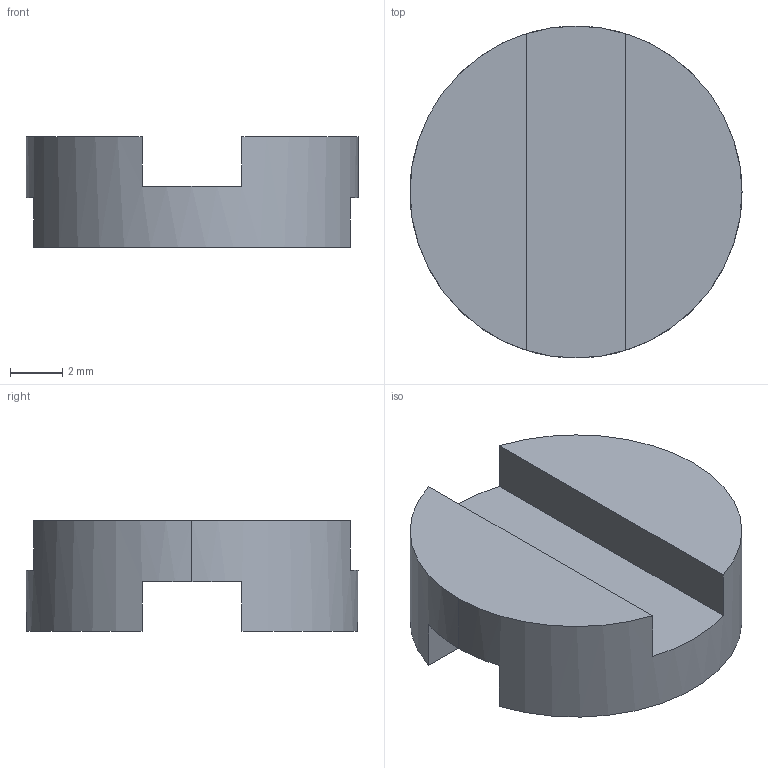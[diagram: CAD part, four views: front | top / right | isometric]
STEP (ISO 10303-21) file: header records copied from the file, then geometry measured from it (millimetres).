
FILE_DESCRIPTION((''),'2;1');
FILE_NAME('OD-8_13-AT','2016-09-09T',('SYSTEM'),(''),'PRO/ENGINEER BY PARAMETRIC TECHNOLOGY CORPORATION, 2015110','PRO/ENGINEER BY PARAMETRIC TECHNOLOGY CORPORATION, 2015110','');
FILE_SCHEMA(('AUTOMOTIVE_DESIGN { 1 0 10303 214 1 1 1 1 }'));
Length unit declared in the file: inch
Products named in the file (1): OD-8_13-AT
Bounding box: 12.7 x 12.7 x 4.24 mm (x, y, z)
Volume: 355.2 mm3; surface area: 485.3 mm2
Topology: 1 solids, 1 shells, 12 faces, 30 edges, 20 vertices
Faces by surface type: plane 10, cylinder 2
Entity records: 427 total; most frequent: DIRECTION 66, CARTESIAN_POINT 64, ORIENTED_EDGE 60, EDGE_CURVE 30, AXIS2_PLACEMENT_3D 24, VERTEX_POINT 20, VECTOR 18, LINE 18
